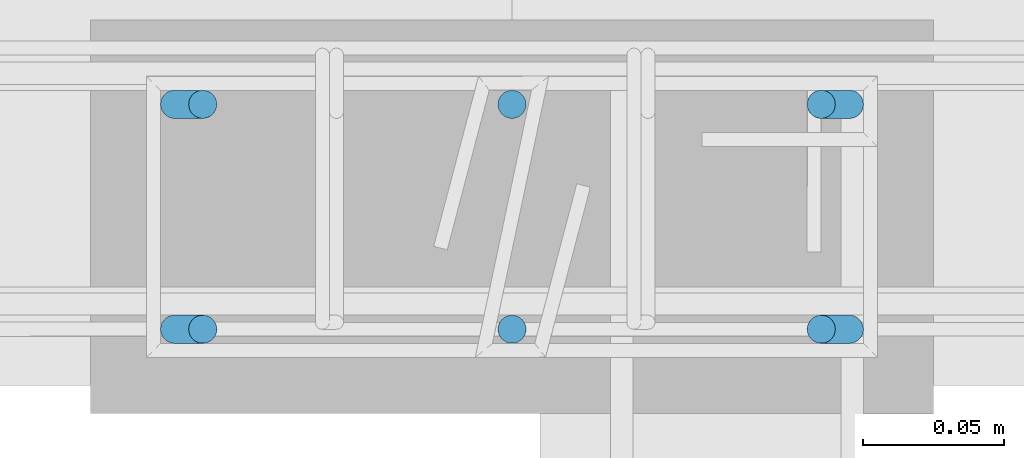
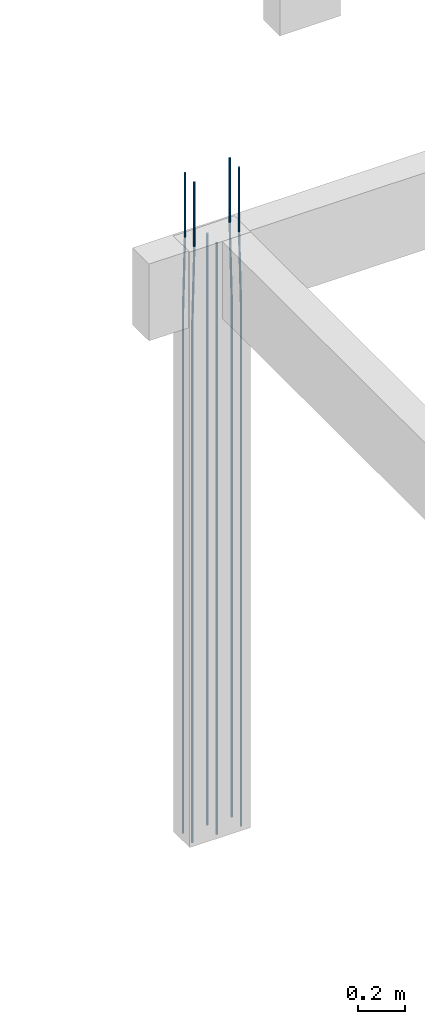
# One storey, part 123 of 236: 6 reinforcing bars.
"""IFC4 building model written with IfcOpenShell, lengths in centimetres."""

from ifc_helpers import new_model, entity, si_unit, derived_unit, frame, origin_with_axes, place, context, project, spatial, element, save


model = new_model("IFC4")

# Units and contexts
model_context = context("Model", 3, precision=1e-05, world=origin_with_axes(), identifier="Body")
ifc_project = project(units=[si_unit("LENGTHUNIT", "METRE", prefix="CENTI"), si_unit("VOLUMEUNIT", "CUBIC_METRE"), si_unit("AREAUNIT", "SQUARE_METRE"), si_unit("POWERUNIT", "WATT"), si_unit("LUMINOUSFLUXUNIT", "LUMEN"), si_unit("ELECTRICCURRENTUNIT", "AMPERE"), si_unit("PRESSUREUNIT", "PASCAL", prefix="KILO"), si_unit("MASSUNIT", "GRAM", prefix="KILO"), si_unit("PLANEANGLEUNIT", "RADIAN"), derived_unit("VOLUMETRICFLOWRATEUNIT", [(si_unit("LENGTHUNIT", "METRE"), 3), (si_unit("TIMEUNIT", "SECOND"), -1)])], contexts=[model_context])

# Site, building, storey
site_placement = place(None, frame((-4000.0, 0.0, 0.0), z_axis=(0.0, 0.0, 1.0), x_axis=(1.0, 0.0, 0.0)))
site = spatial("IfcSite", under=ifc_project, at=site_placement, Name="PADRÃO")
building_placement = place(site_placement, frame((0.0, 0.0, -14.0)))
building = spatial("IfcBuilding", under=site, at=building_placement, Name="CRECHE PRÉ-ESCOLA TIPO 2")
placement_1 = place(building_placement, origin_with_axes())
placement_2 = place(placement_1, frame((0.0, 0.0, 30.0), z_axis=(0.0, 0.0, 1.0), x_axis=(1.0, 0.0, 0.0)))
storey_placement = place(placement_2, frame((0.0, 0.0, 310.0), z_axis=(0.0, 0.0, 1.0), x_axis=(1.0, 0.0, 0.0)))
storey = spatial("IfcBuildingStorey", under=building, at=storey_placement, Name="TERREO", CompositionType="ELEMENT", Elevation=326.0)

# Reinforcing bars
for number, where, z_axis, x_axis, name in (
    (1, (278.5, 3981.0, 33.3573001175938), (0.0, 0.0, 1.0), (1.0, 0.0, 0.0), "P23 - Longitudinal"),
    (2, (278.5, 3989.0, 33.3573001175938), (0.0, 0.0, 1.0), (1.0, 0.0, 0.0), "P23 - Longitudinal"),
):
    element("IfcReinforcingBar", number, at=place(storey_placement, frame(where, z_axis=z_axis, x_axis=x_axis)), inside=storey, Name=name, BarLength=0.0, CrossSectionArea=7.853981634e-05, NominalDiameter=1.0, PredefinedType="MAIN", context=model_context, shape_type="AdvancedSweptSolid", body=[
        entity("IfcSweptDiskSolid", entity("IfcCompositeCurve", [entity("IfcCompositeCurveSegment", "CONTINUOUS", True, entity("IfcPolyline", [entity("IfcCartesianPoint", [0.5, 0.0, -343.357300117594]), entity("IfcCartesianPoint", [0.5, 0.0, -73.3573001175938])])), entity("IfcCompositeCurveSegment", "CONTINUOUS", True, entity("IfcPolyline", [entity("IfcCartesianPoint", [0.5, 0.0, -73.3573001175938]), entity("IfcCartesianPoint", [-0.5, 0.0, -33.3573001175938])])), entity("IfcCompositeCurveSegment", "CONTINUOUS", True, entity("IfcPolyline", [entity("IfcCartesianPoint", [-0.5, 0.0, -33.3573001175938]), entity("IfcCartesianPoint", [-0.5, 0.0, 0.0])]))], False), 0.5),
    ])
for number, where, z_axis, x_axis, name in (
    (3, (255.5, 3981.0, 33.3573001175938), (0.0, 0.0, 1.0), (1.0, 0.0, 0.0), "P23 - Longitudinal"),
    (4, (255.5, 3989.0, 33.3573001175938), (0.0, 0.0, 1.0), (1.0, 0.0, 0.0), "P23 - Longitudinal"),
):
    element("IfcReinforcingBar", number, at=place(storey_placement, frame(where, z_axis=z_axis, x_axis=x_axis)), inside=storey, Name=name, BarLength=0.0, CrossSectionArea=7.853981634e-05, NominalDiameter=1.0, PredefinedType="MAIN", context=model_context, shape_type="AdvancedSweptSolid", body=[
        entity("IfcSweptDiskSolid", entity("IfcCompositeCurve", [entity("IfcCompositeCurveSegment", "CONTINUOUS", True, entity("IfcPolyline", [entity("IfcCartesianPoint", [-0.5, 0.0, -343.357300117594]), entity("IfcCartesianPoint", [-0.5, 0.0, -73.3573001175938])])), entity("IfcCompositeCurveSegment", "CONTINUOUS", True, entity("IfcPolyline", [entity("IfcCartesianPoint", [-0.5, 0.0, -73.3573001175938]), entity("IfcCartesianPoint", [0.5, 0.0, -33.3573001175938])])), entity("IfcCompositeCurveSegment", "CONTINUOUS", True, entity("IfcPolyline", [entity("IfcCartesianPoint", [0.5, 0.0, -33.3573001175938]), entity("IfcCartesianPoint", [0.5, 0.0, 0.0])]))], False), 0.5),
    ])
for number, where, z_axis, x_axis, name in (
    (5, (267.0, 3989.0, -2.0), (0.0, 0.0, 1.0), (1.0, 0.0, 0.0), "P23 - Longitudinal"),
    (6, (267.0, 3981.0, -2.0), (0.0, 0.0, 1.0), (1.0, 0.0, 0.0), "P23 - Longitudinal"),
):
    element("IfcReinforcingBar", number, at=place(storey_placement, frame(where, z_axis=z_axis, x_axis=x_axis)), inside=storey, Name=name, BarLength=0.0, CrossSectionArea=7.853981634e-05, NominalDiameter=1.0, PredefinedType="MAIN", context=model_context, shape_type="AdvancedSweptSolid", body=[
        entity("IfcSweptDiskSolid", entity("IfcCompositeCurve", [entity("IfcCompositeCurveSegment", "CONTINUOUS", True, entity("IfcPolyline", [entity("IfcCartesianPoint", [0.0, 0.0, -308.0]), entity("IfcCartesianPoint", [0.0, 0.0, 0.0])]))], False), 0.5),
    ])

save(model, "model.ifc")
